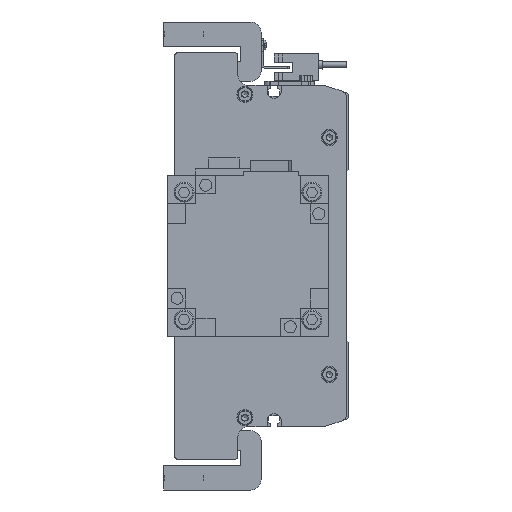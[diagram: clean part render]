
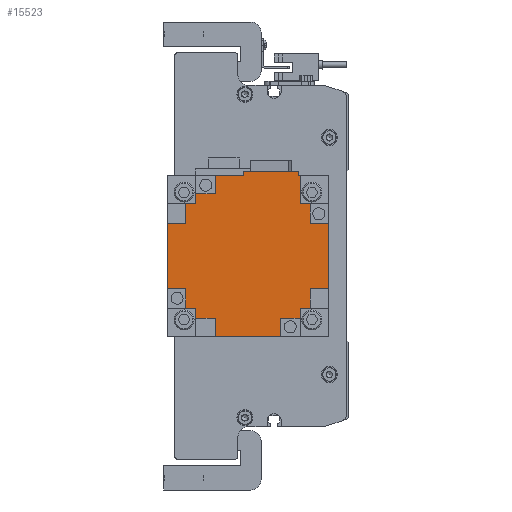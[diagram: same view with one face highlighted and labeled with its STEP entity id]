
A CAD part, left-side view. The second image highlights one B-rep face of the part: STEP entity #15523.
In plain terms, the highlighted planar face has unit normal (-1, 0, 0) as drawn and (0, 1, 0) by its records, which use the part's own axes.
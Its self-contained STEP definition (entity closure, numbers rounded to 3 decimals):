
#1576=ORIENTED_EDGE('',*,*,#5868,.T.);
#1577=ORIENTED_EDGE('',*,*,#5869,.T.);
#1578=ORIENTED_EDGE('',*,*,#5870,.T.);
#1579=ORIENTED_EDGE('',*,*,#5871,.T.);
#1580=ORIENTED_EDGE('',*,*,#5872,.T.);
#1581=ORIENTED_EDGE('',*,*,#5873,.F.);
#1582=ORIENTED_EDGE('',*,*,#5874,.F.);
#1583=ORIENTED_EDGE('',*,*,#5875,.T.);
#1584=ORIENTED_EDGE('',*,*,#5876,.T.);
#1585=ORIENTED_EDGE('',*,*,#5877,.T.);
#1586=ORIENTED_EDGE('',*,*,#5878,.T.);
#1587=ORIENTED_EDGE('',*,*,#5879,.T.);
#1588=ORIENTED_EDGE('',*,*,#5880,.F.);
#1589=ORIENTED_EDGE('',*,*,#5881,.F.);
#1590=ORIENTED_EDGE('',*,*,#5882,.T.);
#1591=ORIENTED_EDGE('',*,*,#5883,.T.);
#1592=ORIENTED_EDGE('',*,*,#5884,.T.);
#1593=ORIENTED_EDGE('',*,*,#5885,.T.);
#1594=ORIENTED_EDGE('',*,*,#5886,.T.);
#1595=ORIENTED_EDGE('',*,*,#5887,.F.);
#1596=ORIENTED_EDGE('',*,*,#5888,.F.);
#1597=ORIENTED_EDGE('',*,*,#5859,.T.);
#1598=ORIENTED_EDGE('',*,*,#5889,.F.);
#1599=ORIENTED_EDGE('',*,*,#5850,.F.);
#1600=ORIENTED_EDGE('',*,*,#5890,.T.);
#1601=ORIENTED_EDGE('',*,*,#5865,.T.);
#1602=ORIENTED_EDGE('',*,*,#5891,.T.);
#1603=ORIENTED_EDGE('',*,*,#5892,.T.);
#1604=ORIENTED_EDGE('',*,*,#5893,.F.);
#1605=ORIENTED_EDGE('',*,*,#5894,.F.);
#5850=EDGE_CURVE('',#8028,#8029,#9606,.T.);
#5859=EDGE_CURVE('',#8038,#8036,#9615,.T.);
#5865=EDGE_CURVE('',#8044,#8043,#9621,.T.);
#5868=EDGE_CURVE('',#8046,#8047,#9624,.T.);
#5869=EDGE_CURVE('',#8047,#8048,#9625,.T.);
#5870=EDGE_CURVE('',#8048,#8049,#9626,.T.);
#5871=EDGE_CURVE('',#8049,#8050,#9627,.T.);
#5872=EDGE_CURVE('',#8050,#8051,#9628,.T.);
#5873=EDGE_CURVE('',#8052,#8051,#9629,.T.);
#5874=EDGE_CURVE('',#8053,#8052,#9630,.T.);
#5875=EDGE_CURVE('',#8053,#8054,#9631,.T.);
#5876=EDGE_CURVE('',#8054,#8055,#9632,.T.);
#5877=EDGE_CURVE('',#8055,#8056,#9633,.T.);
#5878=EDGE_CURVE('',#8056,#8057,#9634,.T.);
#5879=EDGE_CURVE('',#8057,#8058,#9635,.T.);
#5880=EDGE_CURVE('',#8059,#8058,#9636,.T.);
#5881=EDGE_CURVE('',#8060,#8059,#9637,.T.);
#5882=EDGE_CURVE('',#8060,#8061,#9638,.T.);
#5883=EDGE_CURVE('',#8061,#8062,#9639,.T.);
#5884=EDGE_CURVE('',#8062,#8063,#9640,.T.);
#5885=EDGE_CURVE('',#8063,#8064,#9641,.T.);
#5886=EDGE_CURVE('',#8064,#8065,#9642,.T.);
#5887=EDGE_CURVE('',#8066,#8065,#9643,.T.);
#5888=EDGE_CURVE('',#8038,#8066,#9644,.T.);
#5889=EDGE_CURVE('',#8029,#8036,#9645,.T.);
#5890=EDGE_CURVE('',#8028,#8044,#9646,.T.);
#5891=EDGE_CURVE('',#8043,#8067,#9647,.T.);
#5892=EDGE_CURVE('',#8067,#8068,#9648,.T.);
#5893=EDGE_CURVE('',#8069,#8068,#9649,.T.);
#5894=EDGE_CURVE('',#8046,#8069,#9650,.T.);
#8028=VERTEX_POINT('',#23075);
#8029=VERTEX_POINT('',#23076);
#8036=VERTEX_POINT('',#23092);
#8038=VERTEX_POINT('',#23095);
#8043=VERTEX_POINT('',#23105);
#8044=VERTEX_POINT('',#23107);
#8046=VERTEX_POINT('',#23113);
#8047=VERTEX_POINT('',#23114);
#8048=VERTEX_POINT('',#23116);
#8049=VERTEX_POINT('',#23118);
#8050=VERTEX_POINT('',#23120);
#8051=VERTEX_POINT('',#23122);
#8052=VERTEX_POINT('',#23124);
#8053=VERTEX_POINT('',#23126);
#8054=VERTEX_POINT('',#23128);
#8055=VERTEX_POINT('',#23130);
#8056=VERTEX_POINT('',#23132);
#8057=VERTEX_POINT('',#23134);
#8058=VERTEX_POINT('',#23136);
#8059=VERTEX_POINT('',#23138);
#8060=VERTEX_POINT('',#23140);
#8061=VERTEX_POINT('',#23142);
#8062=VERTEX_POINT('',#23144);
#8063=VERTEX_POINT('',#23146);
#8064=VERTEX_POINT('',#23148);
#8065=VERTEX_POINT('',#23150);
#8066=VERTEX_POINT('',#23152);
#8067=VERTEX_POINT('',#23157);
#8068=VERTEX_POINT('',#23159);
#8069=VERTEX_POINT('',#23161);
#9606=LINE('',#23074,#11108);
#9615=LINE('',#23094,#11117);
#9621=LINE('',#23106,#11123);
#9624=LINE('',#23112,#11126);
#9625=LINE('',#23115,#11127);
#9626=LINE('',#23117,#11128);
#9627=LINE('',#23119,#11129);
#9628=LINE('',#23121,#11130);
#9629=LINE('',#23123,#11131);
#9630=LINE('',#23125,#11132);
#9631=LINE('',#23127,#11133);
#9632=LINE('',#23129,#11134);
#9633=LINE('',#23131,#11135);
#9634=LINE('',#23133,#11136);
#9635=LINE('',#23135,#11137);
#9636=LINE('',#23137,#11138);
#9637=LINE('',#23139,#11139);
#9638=LINE('',#23141,#11140);
#9639=LINE('',#23143,#11141);
#9640=LINE('',#23145,#11142);
#9641=LINE('',#23147,#11143);
#9642=LINE('',#23149,#11144);
#9643=LINE('',#23151,#11145);
#9644=LINE('',#23153,#11146);
#9645=LINE('',#23154,#11147);
#9646=LINE('',#23155,#11148);
#9647=LINE('',#23156,#11149);
#9648=LINE('',#23158,#11150);
#9649=LINE('',#23160,#11151);
#9650=LINE('',#23162,#11152);
#11108=VECTOR('',#18401,1000.);
#11117=VECTOR('',#18412,1000.);
#11123=VECTOR('',#18418,1000.);
#11126=VECTOR('',#18423,1000.);
#11127=VECTOR('',#18424,1000.);
#11128=VECTOR('',#18425,1000.);
#11129=VECTOR('',#18426,1000.);
#11130=VECTOR('',#18427,1000.);
#11131=VECTOR('',#18428,1000.);
#11132=VECTOR('',#18429,1000.);
#11133=VECTOR('',#18430,1000.);
#11134=VECTOR('',#18431,1000.);
#11135=VECTOR('',#18432,1000.);
#11136=VECTOR('',#18433,1000.);
#11137=VECTOR('',#18434,1000.);
#11138=VECTOR('',#18435,1000.);
#11139=VECTOR('',#18436,1000.);
#11140=VECTOR('',#18437,1000.);
#11141=VECTOR('',#18438,1000.);
#11142=VECTOR('',#18439,1000.);
#11143=VECTOR('',#18440,1000.);
#11144=VECTOR('',#18441,1000.);
#11145=VECTOR('',#18442,1000.);
#11146=VECTOR('',#18443,1000.);
#11147=VECTOR('',#18444,1000.);
#11148=VECTOR('',#18445,1000.);
#11149=VECTOR('',#18446,1000.);
#11150=VECTOR('',#18447,1000.);
#11151=VECTOR('',#18448,1000.);
#11152=VECTOR('',#18449,1000.);
#12554=EDGE_LOOP('',(#1576,#1577,#1578,#1579,#1580,#1581,#1582,#1583,#1584,
#1585,#1586,#1587,#1588,#1589,#1590,#1591,#1592,#1593,#1594,#1595,#1596,
#1597,#1598,#1599,#1600,#1601,#1602,#1603,#1604,#1605));
#13752=FACE_BOUND('',#12554,.T.);
#14939=PLANE('',#16566);
#15523=ADVANCED_FACE('',(#13752),#14939,.T.);
#16566=AXIS2_PLACEMENT_3D('',#23111,#18421,#18422);
#18401=DIRECTION('',(0.,0.,1.));
#18412=DIRECTION('',(0.,0.,-1.));
#18418=DIRECTION('',(0.,0.,-1.));
#18421=DIRECTION('',(0.,1.,0.));
#18422=DIRECTION('',(0.,0.,1.));
#18423=DIRECTION('',(-1.,0.,0.));
#18424=DIRECTION('',(0.,0.,-1.));
#18425=DIRECTION('',(-1.,0.,0.));
#18426=DIRECTION('',(0.,0.,1.));
#18427=DIRECTION('',(-1.,0.,0.));
#18428=DIRECTION('',(0.,0.,-1.));
#18429=DIRECTION('',(1.,0.,0.));
#18430=DIRECTION('',(0.,0.,1.));
#18431=DIRECTION('',(-1.,0.,0.));
#18432=DIRECTION('',(0.,0.,1.));
#18433=DIRECTION('',(1.,0.,0.));
#18434=DIRECTION('',(0.,0.,1.));
#18435=DIRECTION('',(-1.,0.,0.));
#18436=DIRECTION('',(0.,0.,-1.));
#18437=DIRECTION('',(1.,0.,0.));
#18438=DIRECTION('',(0.,0.,1.));
#18439=DIRECTION('',(1.,0.,0.));
#18440=DIRECTION('',(0.,0.,-1.));
#18441=DIRECTION('',(1.,0.,0.));
#18442=DIRECTION('',(0.,0.,1.));
#18443=DIRECTION('',(-1.,0.,0.));
#18444=DIRECTION('',(-1.,0.,0.));
#18445=DIRECTION('',(-1.,0.,0.));
#18446=DIRECTION('',(-1.,0.,0.));
#18447=DIRECTION('',(0.,0.,-1.));
#18448=DIRECTION('',(1.,0.,0.));
#18449=DIRECTION('',(0.,0.,1.));
#23074=CARTESIAN_POINT('',(42.,138.3,-2.2));
#23075=CARTESIAN_POINT('',(42.,138.3,-2.2));
#23076=CARTESIAN_POINT('',(42.,138.3,25.2));
#23092=CARTESIAN_POINT('',(39.95,138.3,25.2));
#23094=CARTESIAN_POINT('',(39.95,138.3,39.95));
#23095=CARTESIAN_POINT('',(39.95,138.3,25.95));
#23105=CARTESIAN_POINT('',(39.95,138.3,-16.35));
#23106=CARTESIAN_POINT('',(39.95,138.3,39.95));
#23107=CARTESIAN_POINT('',(39.95,138.3,-2.2));
#23111=CARTESIAN_POINT('',(0.,138.3,0.));
#23112=CARTESIAN_POINT('',(0.,138.3,-30.95));
#23113=CARTESIAN_POINT('',(25.95,138.3,-30.95));
#23114=CARTESIAN_POINT('',(16.35,138.3,-30.95));
#23115=CARTESIAN_POINT('',(16.35,138.3,0.));
#23116=CARTESIAN_POINT('',(16.35,138.3,-39.95));
#23117=CARTESIAN_POINT('',(39.95,138.3,-39.95));
#23118=CARTESIAN_POINT('',(-16.35,138.3,-39.95));
#23119=CARTESIAN_POINT('',(-16.35,138.3,0.));
#23120=CARTESIAN_POINT('',(-16.35,138.3,-30.95));
#23121=CARTESIAN_POINT('',(0.,138.3,-30.95));
#23122=CARTESIAN_POINT('',(-25.95,138.3,-30.95));
#23123=CARTESIAN_POINT('',(-25.95,138.3,0.));
#23124=CARTESIAN_POINT('',(-25.95,138.3,-25.95));
#23125=CARTESIAN_POINT('',(0.,138.3,-25.95));
#23126=CARTESIAN_POINT('',(-30.95,138.3,-25.95));
#23127=CARTESIAN_POINT('',(-30.95,138.3,0.));
#23128=CARTESIAN_POINT('',(-30.95,138.3,-16.35));
#23129=CARTESIAN_POINT('',(0.,138.3,-16.35));
#23130=CARTESIAN_POINT('',(-39.95,138.3,-16.35));
#23131=CARTESIAN_POINT('',(-39.95,138.3,-39.95));
#23132=CARTESIAN_POINT('',(-39.95,138.3,16.35));
#23133=CARTESIAN_POINT('',(0.,138.3,16.35));
#23134=CARTESIAN_POINT('',(-30.95,138.3,16.35));
#23135=CARTESIAN_POINT('',(-30.95,138.3,0.));
#23136=CARTESIAN_POINT('',(-30.95,138.3,25.95));
#23137=CARTESIAN_POINT('',(0.,138.3,25.95));
#23138=CARTESIAN_POINT('',(-25.95,138.3,25.95));
#23139=CARTESIAN_POINT('',(-25.95,138.3,0.));
#23140=CARTESIAN_POINT('',(-25.95,138.3,30.95));
#23141=CARTESIAN_POINT('',(0.,138.3,30.95));
#23142=CARTESIAN_POINT('',(-16.35,138.3,30.95));
#23143=CARTESIAN_POINT('',(-16.35,138.3,0.));
#23144=CARTESIAN_POINT('',(-16.35,138.3,39.95));
#23145=CARTESIAN_POINT('',(-39.95,138.3,39.95));
#23146=CARTESIAN_POINT('',(16.35,138.3,39.95));
#23147=CARTESIAN_POINT('',(16.35,138.3,0.));
#23148=CARTESIAN_POINT('',(16.35,138.3,30.95));
#23149=CARTESIAN_POINT('',(0.,138.3,30.95));
#23150=CARTESIAN_POINT('',(25.95,138.3,30.95));
#23151=CARTESIAN_POINT('',(25.95,138.3,0.));
#23152=CARTESIAN_POINT('',(25.95,138.3,25.95));
#23153=CARTESIAN_POINT('',(0.,138.3,25.95));
#23154=CARTESIAN_POINT('',(42.,138.3,25.2));
#23155=CARTESIAN_POINT('',(42.,138.3,-2.2));
#23156=CARTESIAN_POINT('',(0.,138.3,-16.35));
#23157=CARTESIAN_POINT('',(30.95,138.3,-16.35));
#23158=CARTESIAN_POINT('',(30.95,138.3,0.));
#23159=CARTESIAN_POINT('',(30.95,138.3,-25.95));
#23160=CARTESIAN_POINT('',(0.,138.3,-25.95));
#23161=CARTESIAN_POINT('',(25.95,138.3,-25.95));
#23162=CARTESIAN_POINT('',(25.95,138.3,0.));
